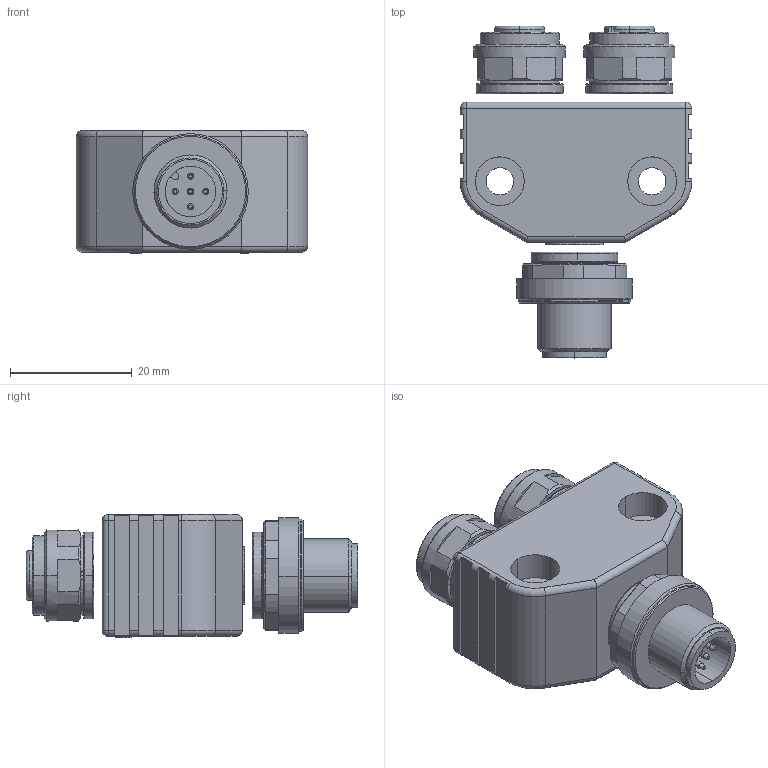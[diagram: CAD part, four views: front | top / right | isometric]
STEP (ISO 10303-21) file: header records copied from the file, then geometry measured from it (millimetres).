
FILE_DESCRIPTION (( 'STEP AP203' ), '1' );
FILE_NAME ('6930562 VB2-FSM5-2FKM4.4.STEP', '2017-07-19T08:44:27', ( 'User' ), ( '' ), 'SwSTEP 2.0', 'SolidWorks 2016', '' );
FILE_SCHEMA (( 'CONFIG_CONTROL_DESIGN' ));
Length unit declared in the file: millimetre
Products named in the file (1): 6930562 VB2-FSM5-2FKM4.4
Bounding box: 38 x 54.5 x 20.2 mm (x, y, z)
Surface area: 8314.8 mm2 (no closed solid volume)
Topology: 0 solids, 16 shells, 474 faces, 1272 edges, 834 vertices
Faces by surface type: plane 196, cylinder 180, cone 46, bspline 26, torus 22, sphere 4
Entity records: 15598 total; most frequent: CARTESIAN_POINT 3597, DIRECTION 2555, ORIENTED_EDGE 2389, EDGE_CURVE 1268, AXIS2_PLACEMENT_3D 962, VERTEX_POINT 834, LINE 631, VECTOR 631
